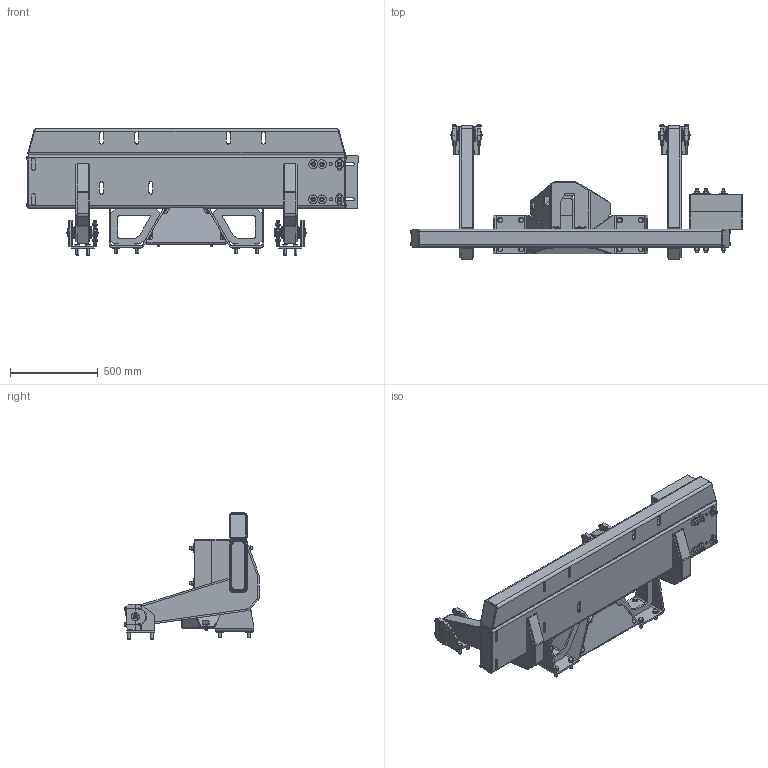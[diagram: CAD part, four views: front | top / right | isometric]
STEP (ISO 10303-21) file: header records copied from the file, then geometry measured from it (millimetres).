
FILE_DESCRIPTION (( 'STEP AP214' ), '1' );
FILE_NAME ('304-83-03-00-00-00.STEP', '2020-12-11T14:32:53', ( '' ), ( '' ), 'SwSTEP 2.0', 'SolidWorks 2016', '' );
FILE_SCHEMA (( 'AUTOMOTIVE_DESIGN' ));
Length unit declared in the file: millimetre
Products named in the file (44): 304-83-03-01-01-01; 304-83-03-03-00-00; 304-83-03-02-01-00_Strojna obrada; 304-83-03-01-01-10; 304-83-03-01-01-07_Priprema za zavarivanje; DIN 71412A M10x1; 304-83-03-01-01-06; Vijak s prirubnicom DIN 6921_DIN 6921 - M8 x 25 x 25-C8.8 Zn; 304-83-03-02-00-00; Nord-Lock_NL8sp-Nord-Lock; 304-83-03-01-01-13_Zavarivanje; Vijak DIN 931_DIN EN 24014 - M12 x 75 x 30-C12.9 Zn; 304-83-03-01-06-03; 304-83-03-01-01-04; 304-83-03-01-04-00; 304-83-03-01-00-00; 304-83-03-01-03-00; 304-83-03-02-02-01_Strojna obrada; 304-83-03-01-01-00_Strojna obrada; EGB E40_EGB4550-E40; 304-83-03-01-01-15; 304-83-03-01-01-14; Uskocnik vanjski DIN 471-HD_Circlip DIN 471 - 45 x 2.54.8; DIN 9021 - 17; Vijak DIN 933_ISO 4017 - M8 x 16-C10.9 Zn; Vijak DIN 933_ISO 4017 - M16 x 50-C12.9 Zn; 304-83-03-01-01-02; Matica DIN 934_Hexagon Nut ISO 4032 - M16 - D - C; 304-83-03-01-01-12; DIN 7349 - 17; 304-83-03-01-01-09; 304-83-03-01-06-00; 304-83-03-01-01-08; 304-83-03-02-03-00; 304-83-03-03-00-01; Podloška DIN 125 M3_Washer DIN 125 - A 8.4; 304-83-03-02-02-02_Strojna obrada; DIN 975 M16x360; Nord-Lock_NL12sp-Nord-Lock; 304-83-03-01-06-02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
Assembly tree (145 placements, depth 4):
  304-83-03-00-00-00
    304-83-03-01-00-00
      304-83-03-01-01-00_Strojna obrada
        304-83-03-01-01-01
        304-83-03-01-01-02
        304-83-03-01-01-04  x2
        304-83-03-01-01-06  x4
        304-83-03-01-01-07_Priprema za zavarivanje  x2
        304-83-03-01-01-08  x2
        304-83-03-01-01-09  x2
        304-83-03-01-01-10
        304-83-03-01-01-11  x2
        304-83-03-01-01-12
        304-83-03-01-01-13_Zavarivanje  x2
        304-83-03-01-01-14
        304-83-03-01-01-15
      304-83-03-01-03-00  x2
      304-83-03-01-04-00  x2
      304-83-03-01-06-00
        304-83-03-01-06-01
        304-83-03-01-06-02
        304-83-03-01-06-03
      Nord-Lock_NL16sp-Nord-Lock  x8
      Vijak DIN 933_ISO 4017 - M16 x 50-C12.9 Zn  x8
      DIN 7349 - 17  x8
      Podloška DIN 125 M3_Washer DIN 125 - A 8.4  x8
      Vijak DIN 933_ISO 4017 - M8 x 16-C10.9 Zn  x8
      EGB E40_EGB4550-E40  x4
      DIN 975 M16x360  x6
      Matica DIN 934_Hexagon Nut ISO 4032 - M16 - D - C  x12
      DIN 9021 - 17  x12
      Nord-Lock_NL8sp-Nord-Lock  x4
      Vijak s prirubnicom DIN 6921_DIN 6921 - M8 x 25 x 25-C8.8 Zn  x4
    304-83-03-02-00-00  x2
      304-83-03-02-01-00_Strojna obrada
        304-83-03-02-02-01_Strojna obrada
        304-83-03-02-02-02_Strojna obrada  x2
      Nord-Lock_NL16sp-Nord-Lock
      Vijak DIN 933_ISO 4017 - M16 x 50-C12.9 Zn
      304-83-03-02-03-00
      Nord-Lock_NL12sp-Nord-Lock
      Vijak DIN 931_DIN EN 24014 - M12 x 75 x 30-C12.9 Zn
    304-83-03-03-00-00  x2
      304-83-03-03-00-01
      DIN 71412A M10x1
      Uskocnik vanjski DIN 471-HD_Circlip DIN 471 - 45 x 2.54.8
Bounding box: 1886.9 x 765.9 x 716.6 mm (x, y, z)
Volume: 48964949.8 mm3; surface area: 9174104.2 mm2
Topology: 163 solids, 163 shells, 6514 faces, 16827 edges, 10650 vertices
Faces by surface type: plane 4631, cylinder 1103, cone 640, torus 96, bspline 44
Entity records: 48505 total; most frequent: CARTESIAN_POINT 9550, DIRECTION 7705, ORIENTED_EDGE 7542, EDGE_CURVE 3771, AXIS2_PLACEMENT_3D 2612, VECTOR 2481, LINE 2481, VERTEX_POINT 2403
